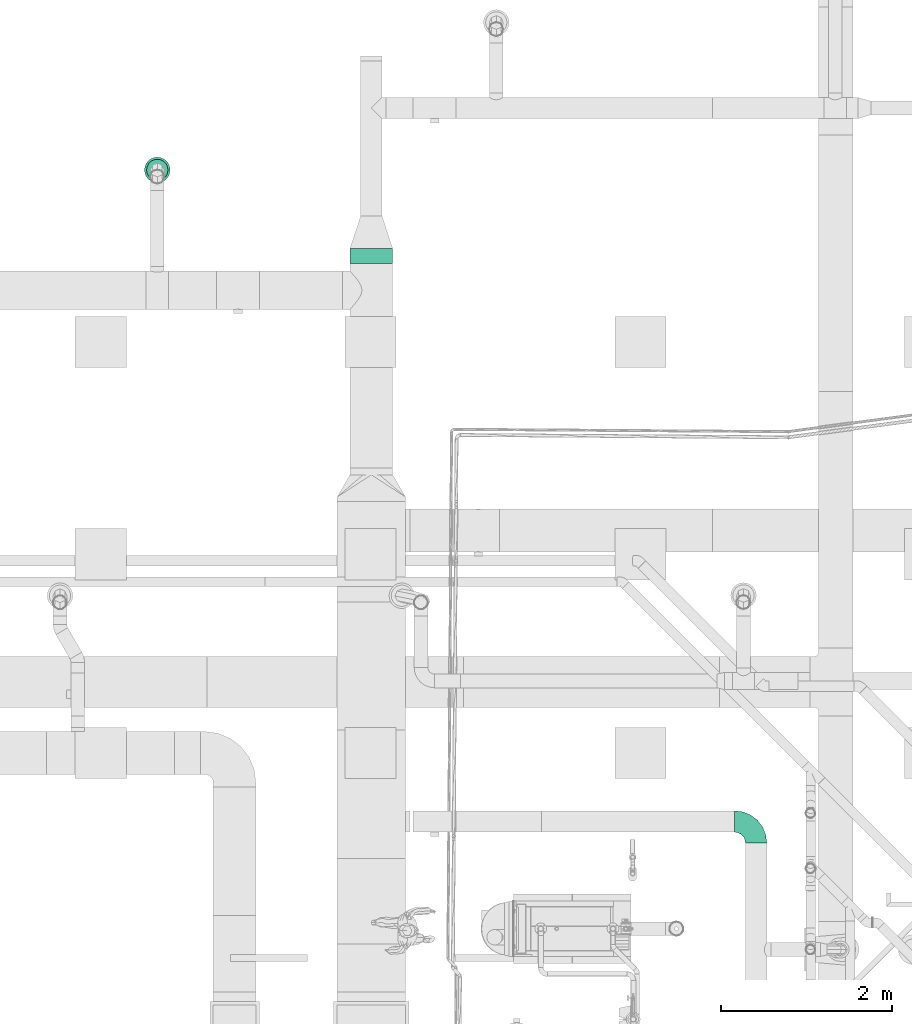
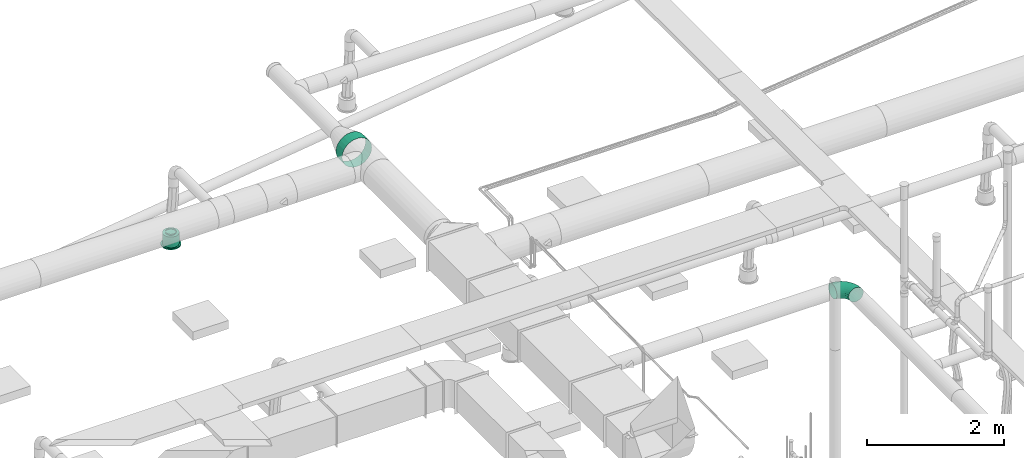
# One storey, part 166 of 374: 1 flow fitting, 1 flow segment, 1 flow terminal.
"""IFC2X3 building model written with IfcOpenShell, lengths in metres."""

from ifc_helpers import new_model, si_unit, direction, origin, place, context, subcontext, project, spatial, open_shell, surface_model, source, transform, mapped, element, save


model = new_model("IFC2X3")

# Units and contexts
model_context = context("Model", 3, precision=1e-05, world=origin(), true_north=direction((-0.4480736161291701, 0.8939966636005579)))
body_context = subcontext(model_context, "Body", "Model", "MODEL_VIEW")
ifc_project = project(units=[si_unit("LENGTHUNIT", "METRE"), si_unit("AREAUNIT", "SQUARE_METRE"), si_unit("VOLUMEUNIT", "CUBIC_METRE"), si_unit("PLANEANGLEUNIT", "RADIAN"), si_unit("THERMODYNAMICTEMPERATUREUNIT", "KELVIN"), si_unit("MASSUNIT", "GRAM", prefix="KILO"), si_unit("TIMEUNIT", "SECOND")], contexts=[model_context])

# Site, building, storey
site_placement = place(None, origin())
site = spatial("IfcSite", under=ifc_project, at=site_placement, Name="Site 1", CompositionType="ELEMENT")
building_placement = place(site_placement, origin())
building = spatial("IfcBuilding", under=site, at=building_placement, Name="Undefined", CompositionType="ELEMENT")
storey_placement = place(building_placement, origin())
storey = spatial("IfcBuildingStorey", under=building, at=storey_placement, Name="Rez de chauss\x8ee", CompositionType="ELEMENT", Elevation=0.0)

# Flow terminal
shared_shape_1 = source(origin(), body_context, "Body", "SurfaceModel", [
    surface_model("IfcFaceBasedSurfaceModel", [(0.0, 0.0, 0.0), (0.03915785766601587, 0.0, 0.0), (0.03915785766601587, 0.020000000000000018, 0.0), (3.552713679e-15, 0.020000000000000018, 0.0), (0.07698144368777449, 0.0, -0.010134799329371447), (0.07698144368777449, 0.020000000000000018, -0.010134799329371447), (0.11089314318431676, 0.0, -0.02971372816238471), (0.11089314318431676, 0.020000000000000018, -0.02971372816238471), (0.13858192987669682, 0.0, -0.05740251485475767), (0.13858192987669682, 0.020000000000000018, -0.05740251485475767), (0.15816085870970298, 0.0, -0.09131421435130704), (0.15816085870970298, 0.020000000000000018, -0.09131421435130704), (0.16829565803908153, 0.0, -0.12913780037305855), (0.16829565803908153, 0.020000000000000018, -0.12913780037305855), (0.16829565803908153, 0.0, -0.16829565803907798), (0.16829565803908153, 0.020000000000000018, -0.16829565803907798), (0.15816085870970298, 0.0, -0.20611924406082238), (0.15816085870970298, 0.020000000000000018, -0.20611924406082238), (0.13858192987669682, 0.0, -0.24003094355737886), (0.13858192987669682, 0.020000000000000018, -0.24003094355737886), (0.11089314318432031, 0.0, -0.2677197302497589), (0.11089314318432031, 0.020000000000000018, -0.2677197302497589), (0.07698144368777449, 0.0, -0.2872986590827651), (0.07698144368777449, 0.020000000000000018, -0.2872986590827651), (0.039157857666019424, 0.0, -0.29743345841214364), (0.039157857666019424, 0.020000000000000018, -0.29743345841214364), (3.552713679e-15, 0.0, -0.29743345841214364), (3.552713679e-15, 0.020000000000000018, -0.29743345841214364), (-0.03782358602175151, 0.0, -0.2872986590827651), (-0.03782358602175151, 0.020000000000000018, -0.2872986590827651), (-0.07173528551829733, 0.0, -0.2677197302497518), (-0.07173528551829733, 0.020000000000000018, -0.2677197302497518), (-0.0994240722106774, 0.0, -0.24003094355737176), (-0.0994240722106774, 0.020000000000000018, -0.24003094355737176), (-0.11900300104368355, 0.0, -0.2061192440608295), (-0.11900300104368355, 0.020000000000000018, -0.2061192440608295), (-0.1291378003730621, 0.0, -0.16829565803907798), (-0.1291378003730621, 0.020000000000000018, -0.16829565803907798), (-0.1291378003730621, 0.0, -0.12913780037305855), (-0.1291378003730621, 0.020000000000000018, -0.12913780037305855), (-0.11900300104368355, 0.0, -0.09131421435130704), (-0.11900300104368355, 0.020000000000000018, -0.09131421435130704), (-0.0994240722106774, 0.0, -0.05740251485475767), (-0.0994240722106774, 0.020000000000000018, -0.05740251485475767), (-0.07173528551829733, 0.0, -0.029713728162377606), (-0.07173528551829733, 0.020000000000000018, -0.029713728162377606), (-0.03782358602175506, 0.0, -0.010134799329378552), (-0.03782358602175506, 0.020000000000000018, -0.010134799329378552), (0.019578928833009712, 0.0, -0.14871672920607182), (0.019578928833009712, 0.020000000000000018, -0.14871672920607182), (0.003263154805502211, 0.020000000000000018, -0.02478612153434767), (0.035894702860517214, 0.020000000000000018, -0.02478612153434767), (0.035894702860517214, 0.20999999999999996, -0.02478612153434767), (0.003263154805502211, 0.20999999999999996, -0.02478612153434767), (0.06741435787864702, 0.020000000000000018, -0.033231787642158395), (0.06741435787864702, 0.20999999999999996, -0.033231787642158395), (0.0956741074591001, 0.020000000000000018, -0.04954756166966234), (0.0956741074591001, 0.20999999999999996, -0.04954756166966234), (0.11874809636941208, 0.020000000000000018, -0.07262155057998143), (0.11874809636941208, 0.20999999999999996, -0.07262155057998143), (0.13506387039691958, 0.020000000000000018, -0.10088130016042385), (0.13506387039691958, 0.20999999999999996, -0.10088130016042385), (0.1435095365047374, 0.020000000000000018, -0.13240095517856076), (0.1435095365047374, 0.20999999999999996, -0.13240095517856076), (0.1435095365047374, 0.020000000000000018, -0.16503250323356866), (0.1435095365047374, 0.20999999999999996, -0.16503250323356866), (0.13506387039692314, 0.020000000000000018, -0.19655215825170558), (0.13506387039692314, 0.20999999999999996, -0.19655215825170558), (0.11874809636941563, 0.020000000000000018, -0.2248119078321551), (0.11874809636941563, 0.20999999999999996, -0.2248119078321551), (0.09567410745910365, 0.020000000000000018, -0.24788589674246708), (0.09567410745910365, 0.20999999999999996, -0.24788589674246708), (0.06741435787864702, 0.020000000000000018, -0.26420167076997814), (0.06741435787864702, 0.20999999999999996, -0.26420167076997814), (0.035894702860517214, 0.020000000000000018, -0.27264733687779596), (0.035894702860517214, 0.20999999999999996, -0.27264733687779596), (0.0032631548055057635, 0.020000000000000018, -0.27264733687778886), (0.0032631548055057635, 0.20999999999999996, -0.27264733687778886), (-0.028256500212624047, 0.020000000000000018, -0.26420167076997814), (-0.028256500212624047, 0.20999999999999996, -0.26420167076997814), (-0.05651624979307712, 0.020000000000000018, -0.2478858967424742), (-0.05651624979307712, 0.20999999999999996, -0.2478858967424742), (-0.07959023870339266, 0.020000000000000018, -0.2248119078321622), (-0.07959023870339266, 0.20999999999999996, -0.2248119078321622), (-0.09590601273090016, 0.020000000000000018, -0.19655215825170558), (-0.09590601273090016, 0.20999999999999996, -0.19655215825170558), (-0.10435167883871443, 0.020000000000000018, -0.16503250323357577), (-0.10435167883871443, 0.20999999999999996, -0.16503250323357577), (-0.10435167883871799, 0.020000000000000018, -0.13240095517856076), (-0.10435167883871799, 0.20999999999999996, -0.13240095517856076), (-0.09590601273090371, 0.020000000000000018, -0.10088130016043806), (-0.09590601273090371, 0.20999999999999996, -0.10088130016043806), (-0.07959023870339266, 0.020000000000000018, -0.07262155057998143), (-0.07959023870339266, 0.20999999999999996, -0.07262155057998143), (-0.056516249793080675, 0.020000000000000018, -0.04954756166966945), (-0.056516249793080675, 0.20999999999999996, -0.04954756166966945), (-0.028256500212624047, 0.020000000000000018, -0.033231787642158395), (-0.028256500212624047, 0.20999999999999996, -0.033231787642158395), (0.019578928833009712, 0.20999999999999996, -0.14871672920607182), (0.009136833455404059, 0.20999999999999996, -0.06940114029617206), (0.030021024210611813, 0.20999999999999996, -0.06940114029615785), (0.030021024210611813, 0.22999999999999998, -0.06940114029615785), (0.009136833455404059, 0.22999999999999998, -0.06940114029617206), (0.05019360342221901, 0.20999999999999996, -0.07480636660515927), (0.05019360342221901, 0.22999999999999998, -0.07480636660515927), (0.06827984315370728, 0.20999999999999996, -0.08524846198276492), (0.06827984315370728, 0.22999999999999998, -0.08524846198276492), (0.0830471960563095, 0.20999999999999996, -0.10001581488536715), (0.0830471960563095, 0.22999999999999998, -0.10001581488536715), (0.0934892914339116, 0.20999999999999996, -0.11810205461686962), (0.0934892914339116, 0.22999999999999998, -0.11810205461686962), (0.09889451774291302, 0.20999999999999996, -0.13827463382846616), (0.09889451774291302, 0.22999999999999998, -0.13827463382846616), (0.09889451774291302, 0.20999999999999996, -0.15915882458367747), (0.09889451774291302, 0.22999999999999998, -0.15915882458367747), (0.09348929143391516, 0.20999999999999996, -0.179331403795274), (0.09348929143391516, 0.22999999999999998, -0.179331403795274), (0.0830471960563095, 0.20999999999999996, -0.19741764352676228), (0.0830471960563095, 0.22999999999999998, -0.19741764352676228), (0.06827984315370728, 0.20999999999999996, -0.2121849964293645), (0.06827984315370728, 0.22999999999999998, -0.2121849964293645), (0.05019360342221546, 0.20999999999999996, -0.22262709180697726), (0.05019360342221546, 0.22999999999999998, -0.22262709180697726), (0.030021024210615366, 0.20999999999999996, -0.22803231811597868), (0.030021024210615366, 0.22999999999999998, -0.22803231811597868), (0.009136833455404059, 0.20999999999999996, -0.22803231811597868), (0.009136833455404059, 0.22999999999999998, -0.22803231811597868), (-0.011035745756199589, 0.20999999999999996, -0.22262709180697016), (-0.011035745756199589, 0.22999999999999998, -0.22262709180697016), (-0.0291219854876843, 0.20999999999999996, -0.2121849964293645), (-0.0291219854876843, 0.22999999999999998, -0.2121849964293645), (-0.043889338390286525, 0.20999999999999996, -0.19741764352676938), (-0.043889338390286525, 0.22999999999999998, -0.19741764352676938), (-0.05433143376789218, 0.20999999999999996, -0.17933140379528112), (-0.05433143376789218, 0.22999999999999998, -0.17933140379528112), (-0.05973666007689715, 0.20999999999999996, -0.15915882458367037), (-0.05973666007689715, 0.22999999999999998, -0.15915882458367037), (-0.0597366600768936, 0.20999999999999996, -0.13827463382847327), (-0.0597366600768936, 0.22999999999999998, -0.13827463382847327), (-0.05433143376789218, 0.20999999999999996, -0.11810205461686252), (-0.05433143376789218, 0.22999999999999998, -0.11810205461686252), (-0.043889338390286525, 0.20999999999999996, -0.10001581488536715), (-0.043889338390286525, 0.22999999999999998, -0.10001581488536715), (-0.02912198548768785, 0.20999999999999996, -0.08524846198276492), (-0.02912198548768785, 0.22999999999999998, -0.08524846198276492), (-0.011035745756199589, 0.20999999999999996, -0.07480636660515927), (-0.011035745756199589, 0.22999999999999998, -0.07480636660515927)], [open_shell([[[0, 1, 2, 3]], [[1, 4, 5, 2]], [[4, 6, 7, 5]], [[6, 8, 9, 7]], [[8, 10, 11, 9]], [[10, 12, 13, 11]], [[12, 14, 15, 13]], [[14, 16, 17, 15]], [[16, 18, 19, 17]], [[18, 20, 21, 19]], [[20, 22, 23, 21]], [[22, 24, 25, 23]], [[24, 26, 27, 25]], [[26, 28, 29, 27]], [[28, 30, 31, 29]], [[30, 32, 33, 31]], [[32, 34, 35, 33]], [[34, 36, 37, 35]], [[36, 38, 39, 37]], [[38, 40, 41, 39]], [[40, 42, 43, 41]], [[42, 44, 45, 43]], [[44, 46, 47, 45]], [[46, 0, 3, 47]], [[48, 1, 0]], [[48, 4, 1]], [[48, 6, 4]], [[48, 8, 6]], [[48, 10, 8]], [[48, 12, 10]], [[48, 14, 12]], [[48, 16, 14]], [[48, 18, 16]], [[48, 20, 18]], [[48, 22, 20]], [[48, 24, 22]], [[48, 26, 24]], [[48, 28, 26]], [[48, 30, 28]], [[48, 32, 30]], [[48, 34, 32]], [[48, 36, 34]], [[48, 38, 36]], [[48, 40, 38]], [[48, 42, 40]], [[48, 44, 42]], [[48, 46, 44]], [[48, 0, 46]], [[49, 47, 3]], [[49, 45, 47]], [[49, 43, 45]], [[49, 41, 43]], [[49, 39, 41]], [[49, 37, 39]], [[49, 35, 37]], [[49, 33, 35]], [[49, 31, 33]], [[49, 29, 31]], [[49, 27, 29]], [[49, 25, 27]], [[49, 23, 25]], [[49, 21, 23]], [[49, 19, 21]], [[49, 17, 19]], [[49, 15, 17]], [[49, 13, 15]], [[49, 11, 13]], [[49, 9, 11]], [[49, 7, 9]], [[49, 5, 7]], [[49, 2, 5]], [[49, 3, 2]], [[50, 51, 52, 53]], [[51, 54, 55, 52]], [[54, 56, 57, 55]], [[56, 58, 59, 57]], [[58, 60, 61, 59]], [[60, 62, 63, 61]], [[62, 64, 65, 63]], [[64, 66, 67, 65]], [[66, 68, 69, 67]], [[68, 70, 71, 69]], [[70, 72, 73, 71]], [[72, 74, 75, 73]], [[74, 76, 77, 75]], [[76, 78, 79, 77]], [[78, 80, 81, 79]], [[80, 82, 83, 81]], [[82, 84, 85, 83]], [[84, 86, 87, 85]], [[86, 88, 89, 87]], [[88, 90, 91, 89]], [[90, 92, 93, 91]], [[92, 94, 95, 93]], [[94, 96, 97, 95]], [[96, 50, 53, 97]], [[49, 51, 50]], [[49, 54, 51]], [[49, 56, 54]], [[49, 58, 56]], [[49, 60, 58]], [[49, 62, 60]], [[49, 64, 62]], [[49, 66, 64]], [[49, 68, 66]], [[49, 70, 68]], [[49, 72, 70]], [[49, 74, 72]], [[49, 76, 74]], [[49, 78, 76]], [[49, 80, 78]], [[49, 82, 80]], [[49, 84, 82]], [[49, 86, 84]], [[49, 88, 86]], [[49, 90, 88]], [[49, 92, 90]], [[49, 94, 92]], [[49, 96, 94]], [[49, 50, 96]], [[98, 97, 53]], [[98, 95, 97]], [[98, 93, 95]], [[98, 91, 93]], [[98, 89, 91]], [[98, 87, 89]], [[98, 85, 87]], [[98, 83, 85]], [[98, 81, 83]], [[98, 79, 81]], [[98, 77, 79]], [[98, 75, 77]], [[98, 73, 75]], [[98, 71, 73]], [[98, 69, 71]], [[98, 67, 69]], [[98, 65, 67]], [[98, 63, 65]], [[98, 61, 63]], [[98, 59, 61]], [[98, 57, 59]], [[98, 55, 57]], [[98, 52, 55]], [[98, 53, 52]], [[99, 100, 101, 102]], [[100, 103, 104, 101]], [[103, 105, 106, 104]], [[105, 107, 108, 106]], [[107, 109, 110, 108]], [[109, 111, 112, 110]], [[111, 113, 114, 112]], [[113, 115, 116, 114]], [[115, 117, 118, 116]], [[117, 119, 120, 118]], [[119, 121, 122, 120]], [[121, 123, 124, 122]], [[123, 125, 126, 124]], [[125, 127, 128, 126]], [[127, 129, 130, 128]], [[129, 131, 132, 130]], [[131, 133, 134, 132]], [[133, 135, 136, 134]], [[135, 137, 138, 136]], [[137, 139, 140, 138]], [[139, 141, 142, 140]], [[141, 143, 144, 142]], [[143, 145, 146, 144]], [[145, 99, 102, 146]]])]),
])
flow_terminal_placement = place(storey_placement, origin())
element("IfcFlowTerminal", 1, at=flow_terminal_placement, inside=storey, Name="Air diffuseur - bouche", ObjectType="Air diffuseur - bouche", context=body_context, shape_type="MappedRepresentation", body=[
    mapped(shared_shape_1, transform((49.430711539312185, 21.783321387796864, 2.38), x_axis=(0.9914448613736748, 0.13052619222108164, 0.0), y_axis=(0.0, 0.0, 1.0), z_axis=(0.13052619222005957, -0.9914448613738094, 0.0))),
])

# Flow fitting
shared_shape_2 = source(origin(), body_context, "Body", "SurfaceModel", [
    surface_model("IfcFaceBasedSurfaceModel", [(0.09789464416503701, 0.0, 0.0), (0.0973386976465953, 0.03262681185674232, 7.105427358e-15), (0.0005559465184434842, 0.03262681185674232, -7.105427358e-15), (0.0, 0.0, 0.0), (-0.09292901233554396, 0.03586888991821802, -0.024838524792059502), (-0.0945589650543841, 0.0032793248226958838, -0.025123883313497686), (-0.1767453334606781, 0.042132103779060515, -0.07282286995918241), (-0.17933821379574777, 0.009614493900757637, -0.07365949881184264), (-0.24518107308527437, 0.05098962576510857, -0.14068298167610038), (-0.24856018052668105, 0.018573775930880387, -0.14229922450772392), (-0.29357244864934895, 0.06183783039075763, -0.22379430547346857), (-0.2975075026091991, 0.029546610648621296, -0.22636537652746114), (-0.31862166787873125, 0.0739374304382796, -0.31649294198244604), (-0.3228445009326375, 0.0417852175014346, -0.3201289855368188), (0.09570874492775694, 0.06412326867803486, -0.008374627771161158), (0.00218589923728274, 0.06412326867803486, -0.008374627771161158), (-0.08815023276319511, 0.06725614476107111, -0.032376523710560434), (-0.16914339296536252, 0.07330839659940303, -0.07874462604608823), (-0.23527403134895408, 0.08186757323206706, -0.14431902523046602), (-0.28203545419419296, 0.09235038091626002, -0.2246309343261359), (-0.3062409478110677, 0.10404243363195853, -0.314207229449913), (0.09311586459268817, 0.09234293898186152, -0.024553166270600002), (0.0047787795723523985, 0.0923429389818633, -0.024553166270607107), (-0.08054829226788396, 0.09530209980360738, -0.04722417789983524), (-0.15705045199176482, 0.10101875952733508, -0.09102120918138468), (-0.2195142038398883, 0.10910333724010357, -0.15295956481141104), (-0.26368274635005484, 0.1190048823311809, -0.22881824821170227), (-0.28654606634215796, 0.1300486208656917, -0.31342761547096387), (0.08973675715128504, 0.11536269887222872, -0.04743307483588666), (0.008157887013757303, 0.11536269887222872, -0.04743307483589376), (-0.07064125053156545, 0.1180954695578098, -0.06836964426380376), (-0.14129062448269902, 0.12337477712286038, -0.10881599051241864), (-0.19897559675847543, 0.13084084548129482, -0.16601576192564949), (-0.23976503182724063, 0.139984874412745, -0.23607088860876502), (-0.26087919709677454, 0.15018371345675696, -0.31420722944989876), (0.0858017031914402, 0.1316137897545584, -0.07545512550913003), (0.012092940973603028, 0.13161378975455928, -0.07545512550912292), (-0.059104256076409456, 0.13408292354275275, -0.09437189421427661), (-0.1229379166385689, 0.1388529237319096, -0.1309162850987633), (-0.17505788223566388, 0.14559872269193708, -0.18259785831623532), (-0.21191226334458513, 0.15386060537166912, -0.24589460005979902), (-0.2309894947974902, 0.16307553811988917, -0.31649294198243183), (0.08157887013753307, 0.13998872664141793, -0.10670966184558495), (0.01631577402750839, 0.13998872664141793, -0.10670966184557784), (-0.04672353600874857, 0.14217494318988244, -0.12345891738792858), (-0.10324303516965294, 0.1463983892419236, -0.15581599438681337), (-0.1493910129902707, 0.15237124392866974, -0.2015758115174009), (-0.18202256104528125, 0.15968646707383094, -0.25761991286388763), (-0.19891389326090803, 0.1678455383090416, -0.3201289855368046), (0.07735603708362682, 0.139916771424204, -0.13906673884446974), (0.02053860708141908, 0.1399167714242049, -0.13906673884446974), (-0.03434281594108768, 0.1418200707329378, -0.153648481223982), (-0.08354815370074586, 0.14549696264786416, -0.18181824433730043), (-0.1237241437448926, 0.15069687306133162, -0.22165630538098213), (-0.15213285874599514, 0.15706543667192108, -0.27044776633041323), (-0.1668382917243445, 0.16416864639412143, -0.324867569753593), (0.07342098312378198, 0.13140282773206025, -0.17032127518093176), (0.02447366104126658, 0.13140282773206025, -0.17032127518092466), (-0.02280582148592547, 0.1330424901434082, -0.1828832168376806), (-0.06519544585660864, 0.13621007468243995, -0.20715102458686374), (-0.09980642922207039, 0.14068971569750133, -0.24147088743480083), (-0.12428009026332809, 0.14617613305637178, -0.2835039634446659), (-0.13694858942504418, 0.15229543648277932, -0.3303857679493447), (0.07004187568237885, 0.11502710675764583, -0.19834332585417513), (0.02785276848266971, 0.1150271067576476, -0.19834332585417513), (-0.01289877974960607, 0.11644037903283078, -0.20917082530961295), (-0.04943561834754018, 0.11917061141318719, -0.23008794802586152), (-0.07926782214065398, 0.12303174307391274, -0.259669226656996), (-0.10036237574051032, 0.12776064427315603, -0.29589874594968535), (-0.11128172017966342, 0.13303504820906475, -0.3363075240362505), (0.06744899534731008, 0.09190558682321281, -0.2212232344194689), (0.030445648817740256, 0.09190558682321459, -0.221223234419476), (-0.0052968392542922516, 0.09314514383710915, -0.23071984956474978), (-0.03734267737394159, 0.09553978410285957, -0.24906590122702), (-0.06350799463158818, 0.0989263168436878, -0.2750111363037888), (-0.08200966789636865, 0.10307395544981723, -0.30678742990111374), (-0.09158683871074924, 0.10770004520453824, -0.34222928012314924), (0.06581904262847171, 0.063613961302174, -0.23740177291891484), (0.032075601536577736, 0.063613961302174, -0.23740177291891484), (-0.0005180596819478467, 0.06474431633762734, -0.2460617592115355), (-0.029740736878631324, 0.06692799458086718, -0.2627915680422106), (-0.053600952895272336, 0.07001618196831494, -0.28645109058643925), (-0.07047267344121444, 0.07379842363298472, -0.31542796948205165), (-0.07920611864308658, 0.07801696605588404, -0.34774747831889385), (0.06526309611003, 0.03208025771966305, -0.2457764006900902), (0.03263154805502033, 0.03208025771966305, -0.2457764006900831), (0.0011118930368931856, 0.0331733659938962, -0.2541510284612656), (-0.02714785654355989, 0.035285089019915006, -0.2703295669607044), (-0.05022184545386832, 0.03827151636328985, -0.2932094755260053), (-0.06653761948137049, 0.04192912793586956, -0.32123152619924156), (-0.07498328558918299, 0.046008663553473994, -0.3524860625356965), (0.06581904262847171, -0.0005465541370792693, -0.2457764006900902), (0.03207560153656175, -0.0005465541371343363, -0.2457764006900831), (-0.0005180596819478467, 0.000583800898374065, -0.25443638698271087), (-0.029740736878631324, 0.0027674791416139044, -0.27116619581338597), (-0.053600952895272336, 0.005855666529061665, -0.2948257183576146), (-0.07047267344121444, 0.009637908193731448, -0.323802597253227), (-0.07920611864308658, 0.013856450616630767, -0.3561221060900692), (0.06744899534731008, -0.0320430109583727, -0.23740177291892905), (0.030445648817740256, -0.03204301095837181, -0.23740177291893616), (-0.0052968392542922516, -0.030803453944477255, -0.24689838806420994), (-0.03734267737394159, -0.02840881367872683, -0.26524443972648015), (-0.06350799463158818, -0.0250222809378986, -0.291189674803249), (-0.08200966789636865, -0.020874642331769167, -0.3229659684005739), (-0.09158683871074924, -0.01624855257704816, -0.3584078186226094), (0.07004187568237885, -0.060262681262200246, -0.2212232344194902), (0.02785276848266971, -0.06026268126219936, -0.2212232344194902), (-0.01289877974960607, -0.058849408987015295, -0.23205073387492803), (-0.04943561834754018, -0.05611917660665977, -0.2529678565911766), (-0.07926782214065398, -0.05225804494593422, -0.28254913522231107), (-0.10036237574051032, -0.04752914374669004, -0.3187786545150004), (-0.11128172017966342, -0.04225473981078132, -0.3591874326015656), (0.07342098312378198, -0.08328244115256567, -0.19834332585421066), (0.02447366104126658, -0.08328244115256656, -0.19834332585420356), (-0.02280582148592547, -0.08164277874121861, -0.2109052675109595), (-0.06519544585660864, -0.07847519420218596, -0.23517307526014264), (-0.09980642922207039, -0.07399555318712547, -0.2694929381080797), (-0.12428009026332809, -0.06850913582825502, -0.3115260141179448), (-0.13694858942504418, -0.06238983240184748, -0.3584078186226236), (0.07735603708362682, -0.09953353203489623, -0.17032127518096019), (0.02053860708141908, -0.09953353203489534, -0.17032127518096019), (-0.03434281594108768, -0.09763023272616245, -0.18490301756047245), (-0.08354815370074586, -0.09395334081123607, -0.21307278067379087), (-0.1237241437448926, -0.08875343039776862, -0.2529108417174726), (-0.15213285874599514, -0.08238486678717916, -0.3017023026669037), (-0.1668382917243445, -0.0752816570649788, -0.35612210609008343), (0.08157887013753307, -0.10790846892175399, -0.13906673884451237), (0.01631577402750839, -0.10790846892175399, -0.13906673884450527), (-0.04672353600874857, -0.10572225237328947, -0.155815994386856), (-0.10324303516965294, -0.1014988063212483, -0.1881730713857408), (-0.1493910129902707, -0.09552595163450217, -0.23393288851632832), (-0.18202256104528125, -0.08821072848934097, -0.28997698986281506), (-0.19891389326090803, -0.08005165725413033, -0.352486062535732), (0.0858017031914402, -0.10783651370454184, -0.10670966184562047), (0.012092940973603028, -0.10783651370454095, -0.10670966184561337), (-0.059104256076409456, -0.10536737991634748, -0.12562643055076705), (-0.1229379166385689, -0.10059737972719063, -0.16217082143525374), (-0.17505788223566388, -0.09385158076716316, -0.21385239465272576), (-0.21191226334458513, -0.08558969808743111, -0.27714913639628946), (-0.2309894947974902, -0.07637476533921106, -0.3477474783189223), (0.08973675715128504, -0.0993225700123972, -0.07545512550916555), (0.008157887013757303, -0.0993225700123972, -0.07545512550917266), (-0.07064125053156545, -0.096589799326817, -0.09639169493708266), (-0.14129062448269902, -0.09131049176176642, -0.13683804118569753), (-0.19897559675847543, -0.08384442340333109, -0.19403781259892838), (-0.23976503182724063, -0.07470039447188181, -0.2640929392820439), (-0.26087919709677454, -0.06450155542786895, -0.34222928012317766), (0.09311586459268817, -0.08294684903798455, -0.04743307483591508), (0.0047787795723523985, -0.08294684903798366, -0.047433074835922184), (-0.08054829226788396, -0.07998768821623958, -0.07010408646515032), (-0.15705045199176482, -0.074271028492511, -0.11390111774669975), (-0.2195142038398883, -0.0661864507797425, -0.17583947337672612), (-0.26368274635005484, -0.05628490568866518, -0.25169815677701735), (-0.28654606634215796, -0.04524116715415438, -0.33630752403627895), (0.09570874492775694, -0.05982532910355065, -0.02455316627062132), (0.00218589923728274, -0.05982532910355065, -0.02455316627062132), (-0.08815023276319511, -0.0566924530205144, -0.048555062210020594), (-0.16914339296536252, -0.05064020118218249, -0.09492316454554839), (-0.23527403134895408, -0.04208102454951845, -0.16049756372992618), (-0.28203545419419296, -0.03159821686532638, -0.24080947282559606), (-0.3062409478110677, -0.01990616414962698, -0.33038576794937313), (0.0973386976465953, -0.03153370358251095, -0.008374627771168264), (0.0005559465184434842, -0.03153370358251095, -0.008374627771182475), (-0.09292901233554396, -0.028291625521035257, -0.03321315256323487), (-0.1767453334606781, -0.02202841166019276, -0.08119749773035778), (-0.24518107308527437, -0.013170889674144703, -0.14905760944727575), (-0.29357244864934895, -0.002322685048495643, -0.23216893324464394), (-0.31862166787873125, 0.009776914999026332, -0.3248675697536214)], [open_shell([[[0, 1, 2, 3]], [[3, 2, 4, 5]], [[5, 4, 6, 7]], [[7, 6, 8, 9]], [[9, 8, 10, 11]], [[11, 10, 12, 13]], [[1, 14, 15, 2]], [[2, 15, 16, 4]], [[4, 16, 17, 6]], [[6, 17, 18, 8]], [[8, 18, 19, 10]], [[10, 19, 20, 12]], [[14, 21, 22, 15]], [[15, 22, 23, 16]], [[16, 23, 24, 17]], [[17, 24, 25, 18]], [[18, 25, 26, 19]], [[19, 26, 27, 20]], [[21, 28, 29, 22]], [[22, 29, 30, 23]], [[23, 30, 31, 24]], [[24, 31, 32, 25]], [[25, 32, 33, 26]], [[26, 33, 34, 27]], [[28, 35, 36, 29]], [[29, 36, 37, 30]], [[30, 37, 38, 31]], [[31, 38, 39, 32]], [[32, 39, 40, 33]], [[33, 40, 41, 34]], [[35, 42, 43, 36]], [[36, 43, 44, 37]], [[37, 44, 45, 38]], [[38, 45, 46, 39]], [[39, 46, 47, 40]], [[40, 47, 48, 41]], [[42, 49, 50, 43]], [[43, 50, 51, 44]], [[44, 51, 52, 45]], [[45, 52, 53, 46]], [[46, 53, 54, 47]], [[47, 54, 55, 48]], [[49, 56, 57, 50]], [[50, 57, 58, 51]], [[51, 58, 59, 52]], [[52, 59, 60, 53]], [[53, 60, 61, 54]], [[54, 61, 62, 55]], [[56, 63, 64, 57]], [[57, 64, 65, 58]], [[58, 65, 66, 59]], [[59, 66, 67, 60]], [[60, 67, 68, 61]], [[61, 68, 69, 62]], [[63, 70, 71, 64]], [[64, 71, 72, 65]], [[65, 72, 73, 66]], [[66, 73, 74, 67]], [[67, 74, 75, 68]], [[68, 75, 76, 69]], [[70, 77, 78, 71]], [[71, 78, 79, 72]], [[72, 79, 80, 73]], [[73, 80, 81, 74]], [[74, 81, 82, 75]], [[75, 82, 83, 76]], [[77, 84, 85, 78]], [[78, 85, 86, 79]], [[79, 86, 87, 80]], [[80, 87, 88, 81]], [[81, 88, 89, 82]], [[82, 89, 90, 83]], [[84, 91, 92, 85]], [[85, 92, 93, 86]], [[86, 93, 94, 87]], [[87, 94, 95, 88]], [[88, 95, 96, 89]], [[89, 96, 97, 90]], [[91, 98, 99, 92]], [[92, 99, 100, 93]], [[93, 100, 101, 94]], [[94, 101, 102, 95]], [[95, 102, 103, 96]], [[96, 103, 104, 97]], [[98, 105, 106, 99]], [[99, 106, 107, 100]], [[100, 107, 108, 101]], [[101, 108, 109, 102]], [[102, 109, 110, 103]], [[103, 110, 111, 104]], [[105, 112, 113, 106]], [[106, 113, 114, 107]], [[107, 114, 115, 108]], [[108, 115, 116, 109]], [[109, 116, 117, 110]], [[110, 117, 118, 111]], [[112, 119, 120, 113]], [[113, 120, 121, 114]], [[114, 121, 122, 115]], [[115, 122, 123, 116]], [[116, 123, 124, 117]], [[117, 124, 125, 118]], [[119, 126, 127, 120]], [[120, 127, 128, 121]], [[121, 128, 129, 122]], [[122, 129, 130, 123]], [[123, 130, 131, 124]], [[124, 131, 132, 125]], [[126, 133, 134, 127]], [[127, 134, 135, 128]], [[128, 135, 136, 129]], [[129, 136, 137, 130]], [[130, 137, 138, 131]], [[131, 138, 139, 132]], [[133, 140, 141, 134]], [[134, 141, 142, 135]], [[135, 142, 143, 136]], [[136, 143, 144, 137]], [[137, 144, 145, 138]], [[138, 145, 146, 139]], [[140, 147, 148, 141]], [[141, 148, 149, 142]], [[142, 149, 150, 143]], [[143, 150, 151, 144]], [[144, 151, 152, 145]], [[145, 152, 153, 146]], [[147, 154, 155, 148]], [[148, 155, 156, 149]], [[149, 156, 157, 150]], [[150, 157, 158, 151]], [[151, 158, 159, 152]], [[152, 159, 160, 153]], [[154, 161, 162, 155]], [[155, 162, 163, 156]], [[156, 163, 164, 157]], [[157, 164, 165, 158]], [[158, 165, 166, 159]], [[159, 166, 167, 160]], [[161, 0, 3, 162]], [[162, 3, 5, 163]], [[163, 5, 7, 164]], [[164, 7, 9, 165]], [[165, 9, 11, 166]], [[166, 11, 13, 167]]])]),
])
flow_fitting_placement = place(storey_placement, origin())
element("IfcFlowFitting", 2, at=flow_fitting_placement, inside=storey, Name="Coude", ObjectType="Coude", context=body_context, shape_type="MappedRepresentation", body=[
    mapped(shared_shape_2, transform((56.28310813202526, 14.42336618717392, 3.8000000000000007), x_axis=(-0.9914448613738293, 0.13052619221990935, 0.0), y_axis=(-0.016893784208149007, -0.12832103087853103, 0.9915887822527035), z_axis=(0.12942830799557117, 0.9831056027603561, 0.12942830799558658))),
])

# Flow segment
shared_shape_3 = source(origin(), body_context, "Body", "SurfaceModel", [
    surface_model("IfcFaceBasedSurfaceModel", [(0.0, 0.0652630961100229, -3.552713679e-15), (0.0, 0.0, 0.0), (0.17999999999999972, 0.0, 4.4408921e-16), (0.17999999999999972, 0.06526309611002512, 4.4408921e-16), (0.0, -0.06303931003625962, -0.01689133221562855), (0.17999999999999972, -0.06303931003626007, -0.016891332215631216), (0.0, -0.11955880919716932, -0.049522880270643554), (0.17999999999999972, -0.1195588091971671, -0.04952288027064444), (0.0, -0.1657067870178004, -0.09567085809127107), (0.17999999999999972, -0.16570678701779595, -0.09567085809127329), (0.0, -0.1983383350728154, -0.15219035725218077), (0.17999999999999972, -0.19833833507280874, -0.15219035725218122), (0.0, -0.2152296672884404, -0.2152296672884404), (0.17999999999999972, -0.21522966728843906, -0.21522966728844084), (0.0, -0.2152296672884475, -0.28049276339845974), (0.17999999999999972, -0.21522966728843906, -0.2804927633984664), (0.0, -0.1983383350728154, -0.3435320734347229), (0.17999999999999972, -0.19833833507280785, -0.343532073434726), (0.0, -0.1657067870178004, -0.4000515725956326), (0.17999999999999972, -0.16570678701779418, -0.40005157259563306), (0.0, -0.11955880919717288, -0.44619955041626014), (0.17999999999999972, -0.11955880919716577, -0.4461995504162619), (0.0, -0.06303931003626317, -0.47883109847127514), (0.17999999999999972, -0.0630393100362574, -0.4788310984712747), (0.0, -7.105427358e-15, -0.49572243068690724), (0.17999999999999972, 1.776356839e-15, -0.495722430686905), (0.0, 0.0652630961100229, -0.4957224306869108), (0.17999999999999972, 0.06526309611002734, -0.495722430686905), (0.0, 0.12830240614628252, -0.47883109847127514), (0.17999999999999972, 0.12830240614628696, -0.4788310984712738), (0.0, 0.18482190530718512, -0.4461995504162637), (0.17999999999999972, 0.18482190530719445, -0.44619955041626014), (0.0, 0.2309698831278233, -0.4000515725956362), (0.17999999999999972, 0.2309698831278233, -0.40005157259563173), (0.0, 0.26360143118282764, -0.34353207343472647), (0.17999999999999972, 0.2636014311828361, -0.3435320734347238), (0.0, 0.2804927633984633, -0.2804927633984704), (0.17999999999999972, 0.2804927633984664, -0.2804927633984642), (0.0, 0.28049276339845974, -0.2152296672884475), (0.17999999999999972, 0.2804927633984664, -0.21522966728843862), (0.0, 0.2636014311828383, -0.15219035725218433), (0.17999999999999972, 0.2636014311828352, -0.152190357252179), (0.0, 0.2309698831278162, -0.09567085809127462), (0.17999999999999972, 0.23096988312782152, -0.09567085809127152), (0.0, 0.18482190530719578, -0.049522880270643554), (0.17999999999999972, 0.18482190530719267, -0.04952288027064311), (0.0, 0.12830240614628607, -0.016891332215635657), (0.17999999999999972, 0.12830240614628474, -0.016891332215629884)], [open_shell([[[0, 1, 2, 3]], [[1, 4, 5, 2]], [[4, 6, 7, 5]], [[6, 8, 9, 7]], [[8, 10, 11, 9]], [[10, 12, 13, 11]], [[12, 14, 15, 13]], [[14, 16, 17, 15]], [[16, 18, 19, 17]], [[18, 20, 21, 19]], [[20, 22, 23, 21]], [[22, 24, 25, 23]], [[24, 26, 27, 25]], [[26, 28, 29, 27]], [[28, 30, 31, 29]], [[30, 32, 33, 31]], [[32, 34, 35, 33]], [[34, 36, 37, 35]], [[36, 38, 39, 37]], [[38, 40, 41, 39]], [[40, 42, 43, 41]], [[42, 44, 45, 43]], [[44, 46, 47, 45]], [[46, 0, 3, 47]]])]),
])
flow_segment_placement = place(storey_placement, origin())
element("IfcFlowSegment", 3, at=flow_segment_placement, inside=storey, Name="Manchon", ObjectType="Manchon", context=body_context, shape_type="MappedRepresentation", body=[
    mapped(shared_shape_3, transform((51.999699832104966, 20.83688817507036, 4.041481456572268), x_axis=(0.0, 1.0, 0.0), y_axis=(-0.9914448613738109, 0.0, 0.1305261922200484), z_axis=(0.1305261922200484, 0.0, 0.9914448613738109))),
])

save(model, "model.ifc")
